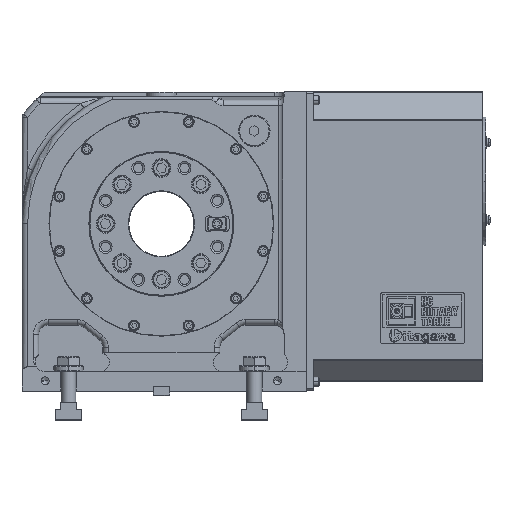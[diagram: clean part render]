
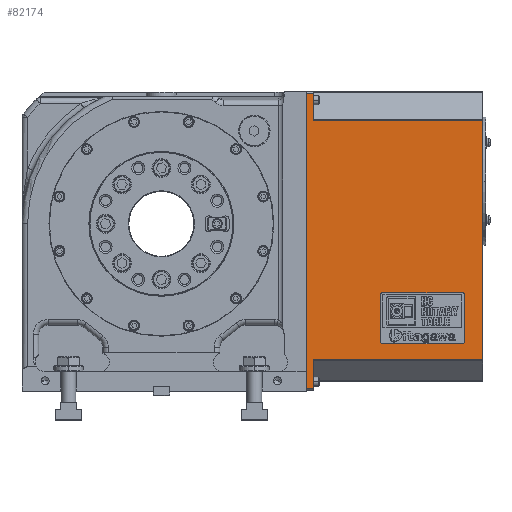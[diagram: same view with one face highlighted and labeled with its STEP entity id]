
A CAD part, top view. The second image highlights one B-rep face of the part: STEP entity #82174.
In plain terms, the highlighted planar face has unit normal (0, 0, 1) as drawn and (1, 0, 0) by its records, which use the part's own axes.
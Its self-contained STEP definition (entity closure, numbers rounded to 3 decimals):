
#2343 = CARTESIAN_POINT ( 'NONE',  ( 0., 2., -8. ) ) ;
#3591 = VERTEX_POINT ( 'NONE', #18488 ) ;
#3852 = VECTOR ( 'NONE', #70966, 1000. ) ;
#4454 = CARTESIAN_POINT ( 'NONE',  ( 0., 32.828, -8. ) ) ;
#8033 = ORIENTED_EDGE ( 'NONE', *, *, #79313, .T. ) ;
#10837 = CARTESIAN_POINT ( 'NONE',  ( 0., 0., 0. ) ) ;
#12293 = DIRECTION ( 'NONE',  ( 0., 0., -1. ) ) ;
#14820 = CARTESIAN_POINT ( 'NONE',  ( 0., 290.172, -8. ) ) ;
#15462 = CARTESIAN_POINT ( 'NONE',  ( 0., 0., -8. ) ) ;
#15469 = CARTESIAN_POINT ( 'NONE',  ( 0., 291., -190. ) ) ;
#17328 = VERTEX_POINT ( 'NONE', #2343 ) ;
#18488 = CARTESIAN_POINT ( 'NONE',  ( 0., 319., 0. ) ) ;
#24829 = PLANE ( 'NONE',  #114986 ) ;
#29460 = ORIENTED_EDGE ( 'NONE', *, *, #99448, .T. ) ;
#32076 = VECTOR ( 'NONE', #44809, 1000. ) ;
#32914 = EDGE_CURVE ( 'NONE', #73574, #3591, #99872, .T. ) ;
#36146 = LINE ( 'NONE', #100462, #85253 ) ;
#36749 = EDGE_CURVE ( 'NONE', #118778, #97732, #92512, .T. ) ;
#37922 = LINE ( 'NONE', #76993, #108596 ) ;
#42510 = ORIENTED_EDGE ( 'NONE', *, *, #32914, .F. ) ;
#42672 = VERTEX_POINT ( 'NONE', #49299 ) ;
#43427 = DIRECTION ( 'NONE',  ( 1., 0., 0. ) ) ;
#44809 = DIRECTION ( 'NONE',  ( 0., 0., 1. ) ) ;
#45198 = DIRECTION ( 'NONE',  ( 0., 1., 0. ) ) ;
#46430 = VERTEX_POINT ( 'NONE', #14820 ) ;
#47863 = VECTOR ( 'NONE', #77048, 1000. ) ;
#49299 = CARTESIAN_POINT ( 'NONE',  ( 0., 290.172, -190. ) ) ;
#49737 = EDGE_CURVE ( 'NONE', #42672, #97732, #99248, .T. ) ;
#50844 = VECTOR ( 'NONE', #75581, 1000. ) ;
#53658 = VECTOR ( 'NONE', #98097, 1000. ) ;
#54980 = CARTESIAN_POINT ( 'NONE',  ( 0., 2., 0. ) ) ;
#58721 = EDGE_CURVE ( 'NONE', #17328, #118778, #96905, .T. ) ;
#60696 = ORIENTED_EDGE ( 'NONE', *, *, #36749, .T. ) ;
#67824 = CARTESIAN_POINT ( 'NONE',  ( 0., 0., -8. ) ) ;
#68119 = VECTOR ( 'NONE', #104775, 1000. ) ;
#70966 = DIRECTION ( 'NONE',  ( 0., -1., 0. ) ) ;
#71942 = EDGE_LOOP ( 'NONE', ( #94607, #60696, #78589, #8033, #29460, #104861, #42510, #81383 ) ) ;
#73481 = EDGE_CURVE ( 'NONE', #80008, #3591, #78295, .T. ) ;
#73574 = VERTEX_POINT ( 'NONE', #54980 ) ;
#75581 = DIRECTION ( 'NONE',  ( 0., 1., 0. ) ) ;
#76993 = CARTESIAN_POINT ( 'NONE',  ( 0., 2., -8. ) ) ;
#77039 = CARTESIAN_POINT ( 'NONE',  ( 0., 32.828, -190. ) ) ;
#77048 = DIRECTION ( 'NONE',  ( 0., 1., 0. ) ) ;
#78174 = LINE ( 'NONE', #79600, #53658 ) ;
#78295 = LINE ( 'NONE', #100066, #32076 ) ;
#78589 = ORIENTED_EDGE ( 'NONE', *, *, #49737, .F. ) ;
#78658 = EDGE_CURVE ( 'NONE', #73574, #17328, #37922, .T. ) ;
#79313 = EDGE_CURVE ( 'NONE', #42672, #46430, #78174, .T. ) ;
#79600 = CARTESIAN_POINT ( 'NONE',  ( 0., 290.172, -8. ) ) ;
#80008 = VERTEX_POINT ( 'NONE', #117622 ) ;
#81383 = ORIENTED_EDGE ( 'NONE', *, *, #78658, .T. ) ;
#82174 = ADVANCED_FACE ( 'NONE', ( #85201 ), #24829, .T. ) ;
#85201 = FACE_OUTER_BOUND ( 'NONE', #71942, .T. ) ;
#85253 = VECTOR ( 'NONE', #45198, 1000. ) ;
#92512 = LINE ( 'NONE', #77039, #68119 ) ;
#94607 = ORIENTED_EDGE ( 'NONE', *, *, #58721, .T. ) ;
#96905 = LINE ( 'NONE', #67824, #47863 ) ;
#97732 = VERTEX_POINT ( 'NONE', #106261 ) ;
#98097 = DIRECTION ( 'NONE',  ( 0., 0., 1. ) ) ;
#99248 = LINE ( 'NONE', #15469, #3852 ) ;
#99448 = EDGE_CURVE ( 'NONE', #46430, #80008, #36146, .T. ) ;
#99872 = LINE ( 'NONE', #10837, #50844 ) ;
#100066 = CARTESIAN_POINT ( 'NONE',  ( 0., 319., -8. ) ) ;
#100462 = CARTESIAN_POINT ( 'NONE',  ( 0., 0., -8. ) ) ;
#104775 = DIRECTION ( 'NONE',  ( 0., 0., -1. ) ) ;
#104861 = ORIENTED_EDGE ( 'NONE', *, *, #73481, .T. ) ;
#106261 = CARTESIAN_POINT ( 'NONE',  ( 0., 32.828, -190. ) ) ;
#107879 = DIRECTION ( 'NONE',  ( 0., 1., 0. ) ) ;
#108596 = VECTOR ( 'NONE', #12293, 1000. ) ;
#114986 = AXIS2_PLACEMENT_3D ( 'NONE', #15462, #43427, #107879 ) ;
#117622 = CARTESIAN_POINT ( 'NONE',  ( 0., 319., -8. ) ) ;
#118778 = VERTEX_POINT ( 'NONE', #4454 ) ;
